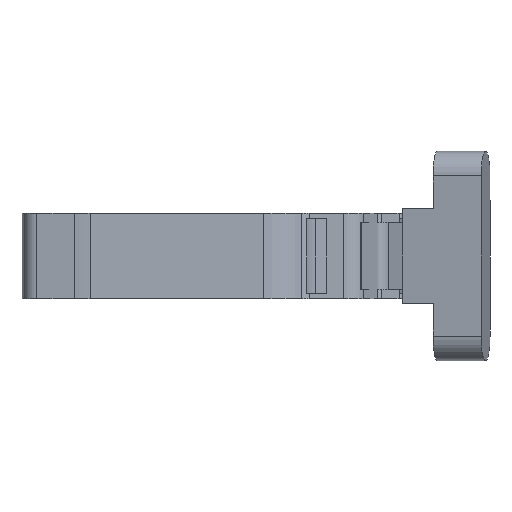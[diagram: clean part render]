
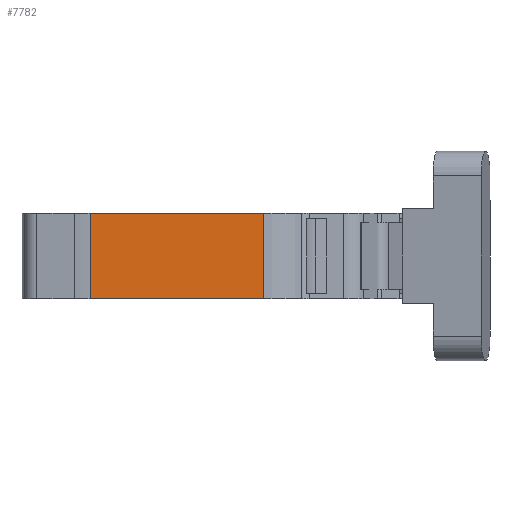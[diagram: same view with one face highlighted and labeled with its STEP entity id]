
A CAD part, front view. The second image highlights one B-rep face of the part: STEP entity #7782.
In plain terms, the highlighted planar face has unit normal (0, -1, 0).
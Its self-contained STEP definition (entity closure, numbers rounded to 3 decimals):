
#254 = CARTESIAN_POINT ( 'NONE',  ( -60., -9.3, -8.5 ) ) ;
#337 = VERTEX_POINT ( 'NONE', #3164 ) ;
#375 = CARTESIAN_POINT ( 'NONE',  ( -60., -9.3, -102.5 ) ) ;
#397 = DIRECTION ( 'NONE',  ( 1., 0., 0. ) ) ;
#1029 = LINE ( 'NONE', #6193, #3452 ) ;
#1308 = VERTEX_POINT ( 'NONE', #1509 ) ;
#1509 = CARTESIAN_POINT ( 'NONE',  ( -60., -9.3, 8.5 ) ) ;
#1519 = CARTESIAN_POINT ( 'NONE',  ( -25.608, -9.3, 8.5 ) ) ;
#1916 = ORIENTED_EDGE ( 'NONE', *, *, #3189, .T. ) ;
#2365 = DIRECTION ( 'NONE',  ( -1., 0., 0. ) ) ;
#2722 = DIRECTION ( 'NONE',  ( 0., 0., 1. ) ) ;
#2908 = VERTEX_POINT ( 'NONE', #1519 ) ;
#3042 = LINE ( 'NONE', #375, #3193 ) ;
#3081 = EDGE_CURVE ( 'NONE', #6234, #1308, #3042, .T. ) ;
#3164 = CARTESIAN_POINT ( 'NONE',  ( -25.608, -9.3, -8.5 ) ) ;
#3189 = EDGE_CURVE ( 'NONE', #337, #2908, #4621, .T. ) ;
#3193 = VECTOR ( 'NONE', #5814, 1000. ) ;
#3412 = EDGE_CURVE ( 'NONE', #6234, #337, #1029, .T. ) ;
#3452 = VECTOR ( 'NONE', #397, 1000. ) ;
#3503 = ORIENTED_EDGE ( 'NONE', *, *, #5594, .T. ) ;
#4334 = VECTOR ( 'NONE', #4797, 1000. ) ;
#4621 = LINE ( 'NONE', #4705, #7792 ) ;
#4705 = CARTESIAN_POINT ( 'NONE',  ( -25.608, -9.3, -13.3 ) ) ;
#4797 = DIRECTION ( 'NONE',  ( -1., 0., 0. ) ) ;
#5594 = EDGE_CURVE ( 'NONE', #2908, #1308, #6826, .T. ) ;
#5740 = DIRECTION ( 'NONE',  ( 0., 1., 0. ) ) ;
#5784 = EDGE_LOOP ( 'NONE', ( #3503, #6487, #6260, #1916 ) ) ;
#5814 = DIRECTION ( 'NONE',  ( 0., 0., 1. ) ) ;
#6193 = CARTESIAN_POINT ( 'NONE',  ( 1.143, -9.3, -8.5 ) ) ;
#6207 = CARTESIAN_POINT ( 'NONE',  ( -25.608, -9.3, -13.3 ) ) ;
#6234 = VERTEX_POINT ( 'NONE', #254 ) ;
#6260 = ORIENTED_EDGE ( 'NONE', *, *, #3412, .T. ) ;
#6487 = ORIENTED_EDGE ( 'NONE', *, *, #3081, .F. ) ;
#6826 = LINE ( 'NONE', #8073, #4334 ) ;
#7782 = ADVANCED_FACE ( 'NONE', ( #8339 ), #8213, .F. ) ;
#7792 = VECTOR ( 'NONE', #2722, 1000. ) ;
#8073 = CARTESIAN_POINT ( 'NONE',  ( -25.608, -9.3, 8.5 ) ) ;
#8173 = AXIS2_PLACEMENT_3D ( 'NONE', #6207, #5740, #2365 ) ;
#8213 = PLANE ( 'NONE',  #8173 ) ;
#8339 = FACE_OUTER_BOUND ( 'NONE', #5784, .T. ) ;
